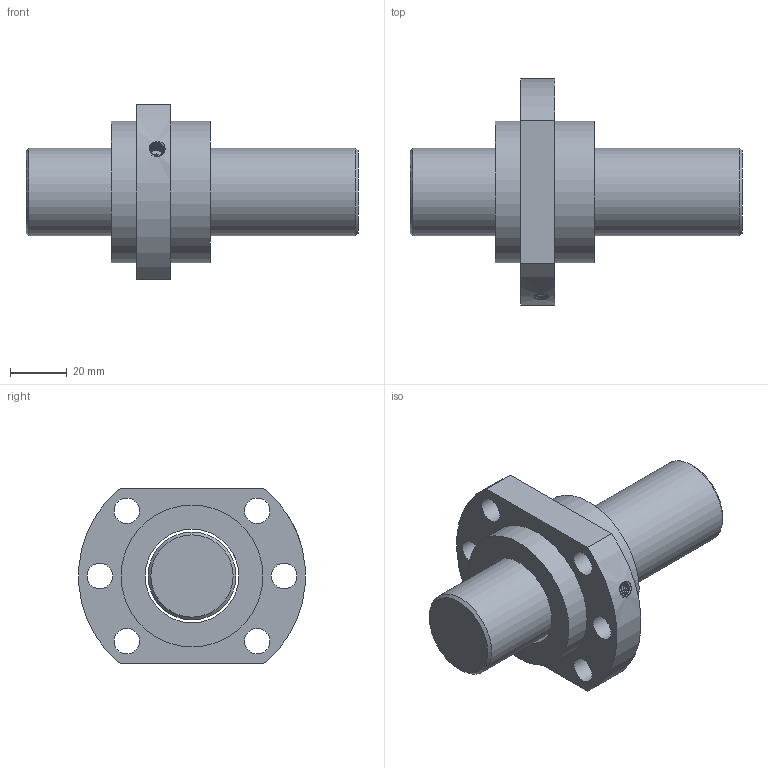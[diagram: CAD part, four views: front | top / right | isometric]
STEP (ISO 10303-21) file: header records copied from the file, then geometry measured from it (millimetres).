
FILE_DESCRIPTION(/* description */ ('Unknown','CAx-IF Rec.Pracs.---Representation and Presentation of Product Manufacturing Information (PMI)---4.0---2014-10-13','CAx-IF Rec.Pracs.---3D Tessellated Geometry---0.4---2014-09-14','2;1'),/* implementation_level */ '2;1');
FILE_NAME(/* name */ 'SFA3205-3.8',/* time_stamp */ '2020-12-08T08:37:08+08:00',/* author */ ('Unknown'),/* organization */ ('Unknown'),/* preprocessor_version */ 'ST-DEVELOPER v16.7',/* originating_system */ 'Solid Edge',/* authorisation */ 'Unknown');
FILE_SCHEMA (('AP242_MANAGED_MODEL_BASED_3D_ENGINEERING_MIM_LF { 1 0 10303 442 1 1 4 }'));
Length unit declared in the file: millimetre
Products named in the file (1): SFA3205-3.8
Bounding box: 117 x 79.74 x 62 mm (x, y, z)
Volume: 151455 mm3; surface area: 31648.5 mm2
Topology: 2 solids, 2 shells, 28 faces, 65 edges, 44 vertices
Faces by surface type: cylinder 15, plane 9, bspline 2, cone 2
Full cylindrical faces by diameter (mm): 2.5 x1, 9 x6, 31 x1, 33 x1, 50 x2
Entity records: 3125 total; most frequent: CARTESIAN_POINT 2454, DIRECTION 126, ORIENTED_EDGE 96, EDGE_LOOP 60, FACE_BOUND 60, AXIS2_PLACEMENT_3D 60, EDGE_CURVE 48, VERTEX_POINT 40
